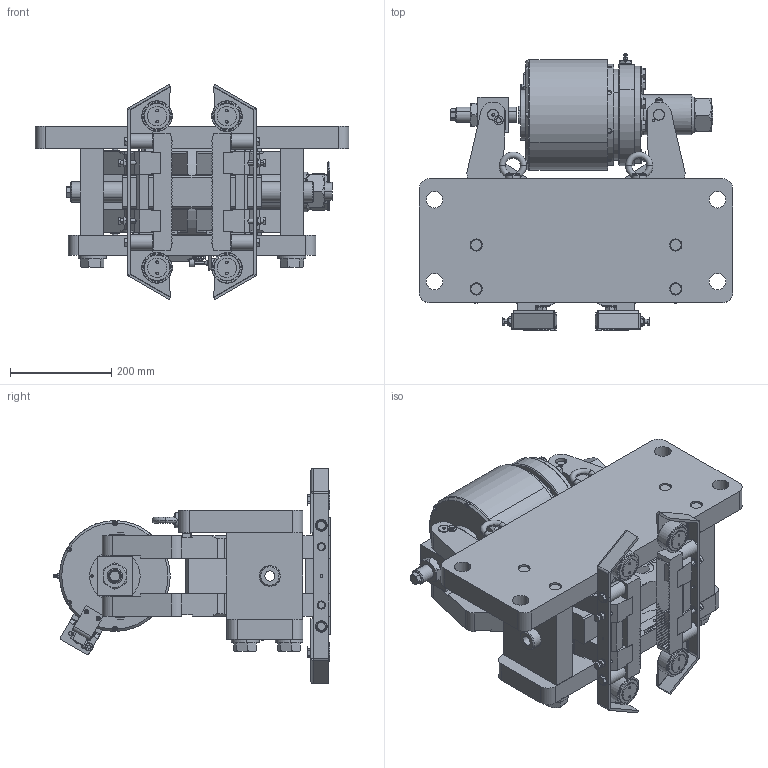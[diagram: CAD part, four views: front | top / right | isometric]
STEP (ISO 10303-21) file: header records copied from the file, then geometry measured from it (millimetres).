
FILE_DESCRIPTION((''),'2;1');
FILE_NAME('DR_085_FHM-200_-400_M-A75_ASM','2022-06-14T',('BOLS'),(''),'CREO PARAMETRIC BY PTC INC, 2018360','CREO PARAMETRIC BY PTC INC, 2018360','');
FILE_SCHEMA(('CONFIG_CONTROL_DESIGN'));
Products named in the file (1): DR_085_FHM-200_-400_M-A75_ASM
Bounding box: 620 x 547.17 x 426.86 mm (x, y, z)
Surface area: 2221803.7 mm2 (no closed solid volume)
Topology: 0 solids, 191 shells, 1579 faces, 7158 edges, 5586 vertices
Faces by surface type: plane 740, cylinder 441, cone 273, torus 79, bspline 32, sphere 14
Entity records: 118086 total; most frequent: CARTESIAN_POINT 39898, DIRECTION 10309, ORIENTED_EDGE 10170, PRESENTATION_STYLE_ASSIGNMENT 7349, STYLED_ITEM 7349, CURVE_STYLE 7158, EDGE_CURVE 7158, VERTEX_POINT 5586
